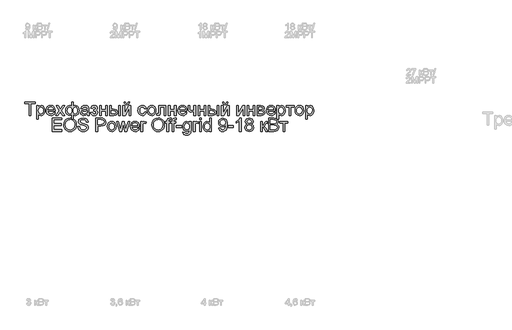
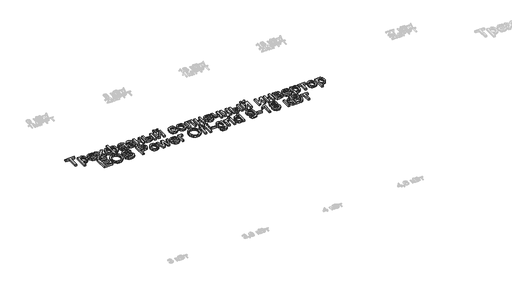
# One storey, part 5 of 26: 1 proxy.
"""IFC4 building model written with IfcOpenShell, lengths in millimetres."""

from ifc_helpers import new_model, si_unit, origin, origin_with_axes, place, context, project, spatial, polyline, outline, extrude, element, save

model = new_model("IFC4")

# Units and contexts
model_context = context("Model", 3, world=origin())
ifc_project = project(units=[si_unit("LENGTHUNIT", "METRE", prefix="MILLI")], contexts=[model_context])

# Site, building, storey
site = spatial("IfcSite", under=ifc_project)
building = spatial("IfcBuilding", under=site)
storey = spatial("IfcBuildingStorey", under=building, Name="Этаж 01", Elevation=0.0)

# Proxy
placement = place(None, origin())
element("IfcBuildingElementProxy", 1, Name="150 мм Arial", ObjectType="150 мм Arial", at=placement, inside=storey, context=model_context, shape_type="SweptSolid", body=[
    extrude(outline(polyline([(890.8573879, -17121.1438018), (890.8573879, -16989.2948948), (841.4140478, -16989.2948948), (841.4140478, -16970.4593366), (959.1362862, -16970.4593366), (959.1362862, -16989.2948948), (909.6929461, -16989.2948948), (909.6929461, -17121.1438018), (890.8573879, -17121.1438018)])), origin_with_axes(), (0.0, 0.0, 1.0), 20.0),
    extrude(outline(polyline([(977.9718444, -17163.5238077), (977.9718444, -17010.4848977), (996.8074025, -17010.4848977), (996.8074025, -17028.9525738), (1009.8304252, -17013.3359831), (1027.4151845, -17008.1304529), (1040.1530986, -17009.9514688), (1051.290726, -17015.4145164), (1060.3590172, -17024.188502), (1066.8889226, -17035.9423317), (1072.1496351, -17064.9682212), (1070.6643116, -17081.076854), (1066.2083409, -17095.4840327), (1058.9242774, -17107.4585916), (1048.9546753, -17116.2693654), (1037.3433999, -17121.6910263), (1025.1343162, -17123.4982466), (1008.7451733, -17118.6605984), (996.8074025, -17106.428522), (996.8074025, -17163.5238077), (977.9718444, -17163.5238077)]), holes=[polyline([(996.8074025, -17066.6972665), (998.8445491, -17083.5830501), (1004.9559887, -17095.3920622), (1013.9736961, -17102.3450319), (1024.729646, -17104.6626884), (1035.6603397, -17102.2622584), (1044.9079734, -17095.0609684), (1051.2125511, -17082.819695), (1053.314077, -17065.299315), (1051.2631349, -17048.5055019), (1045.1103085, -17036.5309429), (1036.1063967, -17029.357244), (1025.5021981, -17026.9660111), (1014.8566129, -17029.5089954), (1005.5078117, -17037.1379482), (998.9825048, -17049.6137464), (996.8074025, -17066.6972665)])]), origin_with_axes(), (0.0, 0.0, 1.0), 20.0),
    extrude(outline(polyline([(1170.8155862, -17088.1815751), (1189.2832624, -17090.5360198), (1182.6291968, -17104.4511563), (1172.0112027, -17114.8530197), (1157.6684034, -17121.3369399), (1139.8399222, -17123.4982466), (1117.7394114, -17119.7688429), (1100.7340662, -17108.5806317), (1089.8907444, -17090.66018), (1086.2763037, -17066.7340547), (1089.9275326, -17042.0031876), (1100.881219, -17023.5079203), (1117.6566379, -17011.9748198), (1138.7730645, -17008.1304529), (1159.2319019, -17011.9656227), (1175.5796581, -17023.4711321), (1186.2988197, -17041.9296112), (1189.8718736, -17066.6236901), (1189.761509, -17071.7004617), (1105.1118619, -17071.7004617), (1108.3722161, -17085.7995391), (1115.9459867, -17096.1646144), (1126.8766804, -17102.5381699), (1140.2078042, -17104.6626884), (1158.6754804, -17100.7263511), (1170.8155862, -17088.1815751)]), holes=[polyline([(1105.1118619, -17052.8649035), (1171.0363154, -17052.8649035), (1168.4887326, -17042.9136956), (1163.4947345, -17035.7951789), (1152.513457, -17029.173303), (1138.6994881, -17026.9660111), (1126.0029607, -17028.7272461), (1115.5045283, -17034.0109513), (1108.2066692, -17042.2469094), (1105.1118619, -17052.8649035)])]), origin_with_axes(), (0.0, 0.0, 1.0), 20.0),
    extrude(outline(polyline([(1196.9352079, -17121.1438018), (1237.1814982, -17065.5200442), (1199.2896527, -17010.4848977), (1221.9511836, -17010.4848977), (1240.2349187, -17036.9724013), (1248.769781, -17049.4803892), (1256.1642091, -17039.2532697), (1276.98633, -17010.4848977), (1299.647861, -17010.4848977), (1259.8430291, -17065.5200442), (1298.176333, -17121.1438018), (1275.5148021, -17121.1438018), (1252.448601, -17087.7033285), (1248.217958, -17081.5964873), (1219.5967388, -17121.1438018), (1196.9352079, -17121.1438018)])), origin_with_axes(), (0.0, 0.0, 1.0), 20.0),
    extrude(outline(polyline([(1378.2274551, -16970.4593366), (1397.0630133, -16970.4593366), (1397.0630133, -17021.1166873), (1409.0375722, -17011.3494204), (1423.0722703, -17008.1304529), (1439.5579822, -17012.2231401), (1452.2269185, -17024.5012017), (1460.2973297, -17042.987272), (1462.9874668, -17065.7039852), (1460.0903961, -17089.1150756), (1451.399184, -17107.5505621), (1438.4037525, -17119.5113255), (1422.5940237, -17123.4982466), (1411.0793173, -17121.6588366), (1397.0630133, -17111.6156582), (1397.0630133, -17163.5238077), (1378.2274551, -17163.5238077), (1378.2274551, -17111.6156582), (1366.1977139, -17120.5184024), (1351.9606807, -17123.4982466), (1336.1785431, -17119.6906679), (1322.5301211, -17108.267932), (1313.0939479, -17089.7542706), (1309.9485568, -17064.6739156), (1312.7950438, -17042.5917988), (1321.3345046, -17024.3908371), (1334.6840225, -17012.195549), (1351.9606807, -17008.1304529), (1366.5472018, -17011.3494204), (1378.2274551, -17021.1166873), (1378.2274551, -16970.4593366)]), holes=[polyline([(1328.784115, -17064.2692454), (1330.6695102, -17082.7461186), (1336.3256959, -17095.2081212), (1344.7777847, -17102.2990466), (1355.0508894, -17104.6626884), (1365.2734104, -17102.3128422), (1372.5436783, -17095.2633035), (1376.8892844, -17083.5140722), (1378.3378197, -17067.0651485), (1376.815708, -17049.5217759), (1372.2493727, -17036.9907954), (1364.6112228, -17029.4722072), (1353.873667, -17026.9660111), (1343.7937004, -17029.4124263), (1335.7738729, -17036.7516721), (1330.5315544, -17048.523896), (1328.784115, -17064.2692454)]), polyline([(1396.9526487, -17066.1454435), (1398.5207457, -17085.2155265), (1403.2250367, -17096.8084078), (1410.2929695, -17102.6991183), (1418.951992, -17104.6626884), (1428.631887, -17102.2484628), (1436.7758747, -17095.0057861), (1442.3079002, -17082.6771407), (1444.1519087, -17065.0050094), (1442.4504544, -17048.2479845), (1437.3460917, -17036.3837901), (1429.5745846, -17029.3204558), (1419.871697, -17026.9660111), (1409.8791023, -17029.4170249), (1402.7100019, -17036.7700662), (1398.391987, -17049.0159381), (1396.9526487, -17066.1454435)])]), origin_with_axes(), (0.0, 0.0, 1.0), 20.0),
    extrude(outline(polyline([(1557.1652576, -17107.0171332), (1538.8999165, -17119.7826384), (1518.7215891, -17123.4982466), (1502.9808382, -17121.2633635), (1491.3695627, -17114.5587141), (1484.2096594, -17104.3775799), (1481.823025, -17091.7132422), (1485.4282685, -17076.8140214), (1494.9012299, -17065.9982907), (1508.0897994, -17059.8178732), (1524.3869718, -17056.9851819), (1557.054893, -17050.5104588), (1557.1652576, -17046.316604), (1555.8684735, -17037.9105004), (1551.9781214, -17032.4106646), (1543.2777123, -17028.3271744), (1531.1560005, -17026.9660111), (1512.0997132, -17030.5896487), (1503.0130279, -17043.4471244), (1484.1774697, -17041.0926797), (1492.3260559, -17022.6985799), (1508.7335929, -17011.9196375), (1533.5840217, -17008.1304529), (1556.4110995, -17011.4781791), (1569.3053634, -17019.8842827), (1575.0811107, -17032.668182), (1576.0008157, -17049.1492954), (1576.0008157, -17072.5833785), (1576.9573089, -17105.3064819), (1580.7097053, -17121.1438018), (1561.8741471, -17121.1438018), (1557.1652576, -17107.0171332)]), holes=[polyline([(1557.1652576, -17069.3460169), (1526.7782048, -17075.1217642), (1510.5730029, -17078.1751848), (1503.2337571, -17083.1415917), (1500.6585831, -17090.388867), (1506.2687835, -17100.5791983), (1522.7315028, -17104.6626884), (1541.7877902, -17100.156134), (1554.0750488, -17089.2484328), (1557.054893, -17074.6803058), (1557.1652576, -17069.3460169)])]), origin_with_axes(), (0.0, 0.0, 1.0), 20.0),
    extrude(outline(polyline([(1627.7986006, -17071.7004617), (1627.7986006, -17052.8649035), (1642.6610333, -17052.1291395), (1650.165826, -17048.2111963), (1653.6974931, -17040.0258219), (1648.9702095, -17030.5160723), (1636.7749213, -17026.9660111), (1624.174963, -17030.4976782), (1616.0263768, -17041.0926797), (1594.8363739, -17038.7382349), (1600.4557714, -17025.3473303), (1608.9998307, -17015.7823984), (1620.4685519, -17010.0434393), (1634.861935, -17008.1304529), (1650.6072843, -17010.4619051), (1662.526661, -17017.4562615), (1670.0314537, -17027.6879795), (1672.5330513, -17039.7315163), (1668.973793, -17051.4301637), (1658.296018, -17060.4800608), (1670.7488236, -17072.2154965), (1674.887496, -17089.10128), (1672.2617383, -17102.9658327), (1664.3844651, -17113.9517088), (1651.7891053, -17121.1116122), (1635.0090878, -17123.4982466), (1618.5969522, -17121.2909546), (1606.0383806, -17114.6690787), (1597.3333729, -17103.6326189), (1592.4819291, -17088.1815751), (1613.671932, -17085.8271303), (1622.1700061, -17099.7330697), (1636.8117095, -17104.6626884), (1650.5704962, -17099.9354048), (1656.0519379, -17087.8504813), (1652.6490294, -17077.9544556), (1645.4017541, -17072.6569549), (1631.4774206, -17071.5900971), (1627.7986006, -17071.7004617)])), origin_with_axes(), (0.0, 0.0, 1.0), 20.0),
    extrude(outline(polyline([(1698.4319437, -17010.4848977), (1717.2675019, -17010.4848977), (1717.2675019, -17052.8649035), (1766.710842, -17052.8649035), (1766.710842, -17010.4848977), (1785.5464002, -17010.4848977), (1785.5464002, -17121.1438018), (1766.710842, -17121.1438018), (1766.710842, -17071.7004617), (1717.2675019, -17071.7004617), (1717.2675019, -17121.1438018), (1698.4319437, -17121.1438018), (1698.4319437, -17010.4848977)])), origin_with_axes(), (0.0, 0.0, 1.0), 20.0),
    extrude(outline(polyline([(1917.3953073, -17010.4848977), (1936.2308654, -17010.4848977), (1936.2308654, -17121.1438018), (1917.3953073, -17121.1438018), (1917.3953073, -17010.4848977)])), origin_with_axes(), (0.0, 0.0, 1.0), 20.0),
    extrude(outline(polyline([(1813.7997374, -17010.4848977), (1832.6352956, -17010.4848977), (1832.6352956, -17050.5104588), (1855.9222259, -17050.5104588), (1876.0499695, -17052.869502), (1890.9629859, -17059.9466319), (1900.1922255, -17071.1716313), (1903.2686386, -17085.9742831), (1900.6888661, -17099.4525597), (1892.9495487, -17110.8247119), (1879.5448485, -17118.5640293), (1859.9689278, -17121.1438018), (1813.7997374, -17121.1438018), (1813.7997374, -17010.4848977)]), holes=[polyline([(1832.6352956, -17102.3082437), (1851.9858885, -17102.3082437), (1876.965076, -17098.3535122), (1882.5660794, -17093.2905363), (1884.4330805, -17086.0110713), (1878.8964565, -17074.4227884), (1870.0167048, -17070.6152098), (1854.4506979, -17069.3460169), (1832.6352956, -17069.3460169), (1832.6352956, -17102.3082437)])]), origin_with_axes(), (0.0, 0.0, 1.0), 20.0),
    extrude(outline(polyline([(1964.4842026, -17010.4848977), (1983.3197608, -17010.4848977), (1983.3197608, -17094.8770274), (2029.5993158, -17010.4848977), (2053.9531039, -17010.4848977), (2053.9531039, -17121.1438018), (2035.1175457, -17121.1438018), (2035.1175457, -17037.2667069), (1989.1322963, -17121.1438018), (1964.4842026, -17121.1438018), (1964.4842026, -17010.4848977)])), origin_with_axes(), (0.0, 0.0, 1.0), 20.0),
    extrude(outline(polyline([(2025.6997666, -16970.4593366), (2039.8264352, -16970.4593366), (2036.7868103, -16982.5212675), (2030.6845677, -16991.4102162), (2021.795619, -16996.8870594), (2010.3958756, -16998.7126738), (1998.0258435, -16996.900855), (1988.4333205, -16991.4653985), (1981.875824, -16982.5902454), (1978.6108712, -16970.4593366), (1992.7375399, -16970.4593366), (1998.0350406, -16981.0727322), (2008.7036185, -16984.5860052), (2020.4022659, -16981.1830968), (2025.6997666, -16970.4593366)])), origin_with_axes(), (0.0, 0.0, 1.0), 20.0),
    extrude(outline(polyline([(2211.7009034, -17081.1182408), (2230.5364615, -17083.4726855), (2225.2849461, -17100.2251119), (2215.4165115, -17112.884851), (2201.86006, -17120.8448977), (2185.5444935, -17123.4982466), (2165.5087204, -17119.796434), (2149.8415459, -17108.6909963), (2139.7293896, -17090.6693771), (2136.3586708, -17066.2190199), (2137.7980091, -17049.4573965), (2142.116024, -17034.9306563), (2149.3816934, -17023.1998191), (2159.6639952, -17014.8259052), (2171.9650494, -17009.804316), (2185.2869761, -17008.1304529), (2201.202471, -17010.4297154), (2213.9265895, -17017.3275028), (2223.0546615, -17028.4559331), (2228.1820168, -17043.4471244), (2209.3464586, -17045.8015692), (2200.6092612, -17031.6932947), (2185.4341289, -17026.9660111), (2173.2618334, -17029.2928647), (2163.6003325, -17036.2734255), (2157.2957548, -17048.2847727), (2155.1942289, -17065.7039852), (2157.2497696, -17083.3577224), (2163.4163915, -17095.4104563), (2172.9031485, -17102.3496304), (2184.9190941, -17104.6626884), (2194.6725655, -17103.2187516), (2202.6694004, -17098.8869411), (2208.4865345, -17091.5568924), (2211.7009034, -17081.1182408)])), origin_with_axes(), (0.0, 0.0, 1.0), 20.0),
    extrude(outline(polyline([(2242.3086854, -17065.8143498), (2246.3829785, -17039.1337081), (2258.6058578, -17020.3809233), (2273.7074137, -17011.1930705), (2291.7888137, -17008.1304529), (2311.5762666, -17011.8598566), (2327.3813968, -17023.0480678), (2337.7418735, -17040.8121697), (2341.1953657, -17064.2692454), (2339.6686554, -17083.2979416), (2335.0885246, -17097.7832951), (2327.5883304, -17108.6312155), (2317.3014301, -17116.747612), (2305.0831493, -17121.8105879), (2291.7888137, -17123.4982466), (2271.7622376, -17119.7826384), (2255.9755015, -17108.635814), (2245.7253894, -17090.4992316), (2242.3086854, -17065.8143498)]), holes=[polyline([(2261.1442435, -17065.7775616), (2263.3239444, -17082.8242935), (2269.8630468, -17094.9689979), (2279.7038902, -17102.2392658), (2291.7888137, -17104.6626884), (2303.818555, -17102.2254702), (2313.6410043, -17094.9138156), (2320.1801067, -17082.6081628), (2322.3598075, -17065.1889504), (2320.1663111, -17048.6388591), (2313.585822, -17036.6597016), (2303.7495771, -17029.3894337), (2291.7888137, -17026.9660111), (2279.7038902, -17029.3802367), (2269.8630468, -17036.6229134), (2263.3239444, -17048.7400267), (2261.1442435, -17065.7775616)])]), origin_with_axes(), (0.0, 0.0, 1.0), 20.0),
    extrude(outline(polyline([(2371.8031477, -17010.4848977), (2456.5631594, -17010.4848977), (2456.5631594, -17121.0334372), (2437.7276012, -17121.0334372), (2437.7276012, -17029.3204558), (2390.6387058, -17029.3204558), (2390.6387058, -17082.1115221), (2389.369513, -17106.4653102), (2382.3981492, -17116.747612), (2365.9170358, -17121.1438018), (2350.6131448, -17120.1873086), (2350.6131448, -17102.3082437), (2359.0376425, -17102.3082437), (2367.5541106, -17101.1494154), (2370.9570191, -17097.4705954), (2371.8031477, -17081.0446644), (2371.8031477, -17010.4848977)])), origin_with_axes(), (0.0, 0.0, 1.0), 20.0),
    extrude(outline(polyline([(2484.8164966, -17010.4848977), (2503.6520548, -17010.4848977), (2503.6520548, -17052.8649035), (2553.0953949, -17052.8649035), (2553.0953949, -17010.4848977), (2571.9309531, -17010.4848977), (2571.9309531, -17121.1438018), (2553.0953949, -17121.1438018), (2553.0953949, -17071.7004617), (2503.6520548, -17071.7004617), (2503.6520548, -17121.1438018), (2484.8164966, -17121.1438018), (2484.8164966, -17010.4848977)])), origin_with_axes(), (0.0, 0.0, 1.0), 20.0),
    extrude(outline(polyline([(2677.6602385, -17088.1815751), (2696.1279146, -17090.5360198), (2689.4738491, -17104.4511563), (2678.855855, -17114.8530197), (2664.5130557, -17121.3369399), (2646.6845745, -17123.4982466), (2624.5840636, -17119.7688429), (2607.5787184, -17108.5806317), (2596.7353966, -17090.66018), (2593.120956, -17066.7340547), (2596.7721848, -17042.0031876), (2607.7258712, -17023.5079203), (2624.5012902, -17011.9748198), (2645.6177167, -17008.1304529), (2666.0765542, -17011.9656227), (2682.4243103, -17023.4711321), (2693.143472, -17041.9296112), (2696.7165258, -17066.6236901), (2696.6061612, -17071.7004617), (2611.9565141, -17071.7004617), (2615.2168683, -17085.7995391), (2622.7906389, -17096.1646144), (2633.7213327, -17102.5381699), (2647.0524565, -17104.6626884), (2665.5201326, -17100.7263511), (2677.6602385, -17088.1815751)]), holes=[polyline([(2611.9565141, -17052.8649035), (2677.8809677, -17052.8649035), (2675.3333849, -17042.9136956), (2670.3393868, -17035.7951789), (2659.3581092, -17029.173303), (2645.5441403, -17026.9660111), (2632.8476129, -17028.7272461), (2622.3491805, -17034.0109513), (2615.0513214, -17042.2469094), (2611.9565141, -17052.8649035)])]), origin_with_axes(), (0.0, 0.0, 1.0), 20.0),
    extrude(outline(polyline([(2708.4887497, -17010.4848977), (2727.3243078, -17010.4848977), (2727.3243078, -17031.7116888), (2728.8510181, -17051.6141047), (2736.1902639, -17062.3930472), (2750.7583909, -17066.9915721), (2776.767648, -17061.2894012), (2776.767648, -17010.4848977), (2795.6032061, -17010.4848977), (2795.6032061, -17121.1438018), (2776.767648, -17121.1438018), (2776.767648, -17079.3524072), (2745.7184076, -17085.8271303), (2734.3278613, -17084.1394716), (2724.3628578, -17079.0764957), (2716.5959491, -17071.5671045), (2711.7996876, -17062.5402), (2708.4887497, -17041.0191033), (2708.4887497, -17010.4848977)])), origin_with_axes(), (0.0, 0.0, 1.0), 20.0),
    extrude(outline(polyline([(2823.8565434, -17010.4848977), (2842.6921015, -17010.4848977), (2842.6921015, -17052.8649035), (2892.1354417, -17052.8649035), (2892.1354417, -17010.4848977), (2910.9709998, -17010.4848977), (2910.9709998, -17121.1438018), (2892.1354417, -17121.1438018), (2892.1354417, -17071.7004617), (2842.6921015, -17071.7004617), (2842.6921015, -17121.1438018), (2823.8565434, -17121.1438018), (2823.8565434, -17010.4848977)])), origin_with_axes(), (0.0, 0.0, 1.0), 20.0),
    extrude(outline(polyline([(3042.8199069, -17010.4848977), (3061.655465, -17010.4848977), (3061.655465, -17121.1438018), (3042.8199069, -17121.1438018), (3042.8199069, -17010.4848977)])), origin_with_axes(), (0.0, 0.0, 1.0), 20.0),
    extrude(outline(polyline([(2939.2243371, -17010.4848977), (2958.0598952, -17010.4848977), (2958.0598952, -17050.5104588), (2981.3468255, -17050.5104588), (3001.4745692, -17052.869502), (3016.3875855, -17059.9466319), (3025.6168251, -17071.1716313), (3028.6932383, -17085.9742831), (3026.1134658, -17099.4525597), (3018.3741483, -17110.8247119), (3004.9694481, -17118.5640293), (2985.3935274, -17121.1438018), (2939.2243371, -17121.1438018), (2939.2243371, -17010.4848977)]), holes=[polyline([(2958.0598952, -17102.3082437), (2977.4104882, -17102.3082437), (3002.3896756, -17098.3535122), (3007.990679, -17093.2905363), (3009.8576801, -17086.0110713), (3004.3210561, -17074.4227884), (2995.4413044, -17070.6152098), (2979.8752975, -17069.3460169), (2958.0598952, -17069.3460169), (2958.0598952, -17102.3082437)])]), origin_with_axes(), (0.0, 0.0, 1.0), 20.0),
    extrude(outline(polyline([(3089.9088023, -17010.4848977), (3108.7443604, -17010.4848977), (3108.7443604, -17094.8770274), (3155.0239154, -17010.4848977), (3179.3777035, -17010.4848977), (3179.3777035, -17121.1438018), (3160.5421454, -17121.1438018), (3160.5421454, -17037.2667069), (3114.556896, -17121.1438018), (3089.9088023, -17121.1438018), (3089.9088023, -17010.4848977)])), origin_with_axes(), (0.0, 0.0, 1.0), 20.0),
    extrude(outline(polyline([(3151.1243663, -16970.4593366), (3165.2510349, -16970.4593366), (3162.2114099, -16982.5212675), (3156.1091673, -16991.4102162), (3147.2202186, -16996.8870594), (3135.8204753, -16998.7126738), (3123.4504432, -16996.900855), (3113.8579202, -16991.4653985), (3107.3004236, -16982.5902454), (3104.0354709, -16970.4593366), (3118.1621395, -16970.4593366), (3123.4596402, -16981.0727322), (3134.1282181, -16984.5860052), (3145.8268655, -16981.1830968), (3151.1243663, -16970.4593366)])), origin_with_axes(), (0.0, 0.0, 1.0), 20.0),
    extrude(outline(polyline([(3266.49216, -17010.4848977), (3285.3277181, -17010.4848977), (3285.3277181, -17094.8770274), (3331.6072731, -17010.4848977), (3355.9610612, -17010.4848977), (3355.9610612, -17121.1438018), (3337.125503, -17121.1438018), (3337.125503, -17037.2667069), (3291.1402536, -17121.1438018), (3266.49216, -17121.1438018), (3266.49216, -17010.4848977)])), origin_with_axes(), (0.0, 0.0, 1.0), 20.0),
    extrude(outline(polyline([(3384.2143984, -17010.4848977), (3403.0499566, -17010.4848977), (3403.0499566, -17052.8649035), (3452.4932967, -17052.8649035), (3452.4932967, -17010.4848977), (3471.3288549, -17010.4848977), (3471.3288549, -17121.1438018), (3452.4932967, -17121.1438018), (3452.4932967, -17071.7004617), (3403.0499566, -17071.7004617), (3403.0499566, -17121.1438018), (3384.2143984, -17121.1438018), (3384.2143984, -17010.4848977)])), origin_with_axes(), (0.0, 0.0, 1.0), 20.0),
    extrude(outline(polyline([(3499.5821921, -17010.4848977), (3541.0792812, -17010.4848977), (3563.8327826, -17013.0048893), (3576.635076, -17022.2387274), (3581.987759, -17038.3335647), (3578.7503975, -17051.4117696), (3569.0015246, -17060.7375782), (3581.6566652, -17070.9463036), (3586.6966486, -17088.6966099), (3583.5052723, -17103.0532047), (3575.9177061, -17113.1607625), (3563.906359, -17119.148042), (3547.4436397, -17121.1438018), (3499.5821921, -17121.1438018), (3499.5821921, -17010.4848977)]), holes=[polyline([(3518.4177503, -17052.8649035), (3537.0325792, -17052.8649035), (3552.3916525, -17051.9084103), (3559.859657, -17048.0824376), (3563.1522009, -17041.1662561), (3561.708264, -17035.5468586), (3557.3764536, -17031.932418), (3537.6211904, -17029.3204558), (3518.4177503, -17029.3204558), (3518.4177503, -17052.8649035)]), polyline([(3518.4177503, -17102.3082437), (3541.5207396, -17102.3082437), (3562.0117667, -17098.9053352), (3566.2516067, -17094.2654236), (3567.8610904, -17087.1515055), (3564.642123, -17078.0832143), (3556.2544135, -17072.8041077), (3539.6813296, -17071.7004617), (3518.4177503, -17071.7004617), (3518.4177503, -17102.3082437)])]), origin_with_axes(), (0.0, 0.0, 1.0), 20.0),
    extrude(outline(polyline([(3687.7170444, -17088.1815751), (3706.1847206, -17090.5360198), (3699.530655, -17104.4511563), (3688.9126609, -17114.8530197), (3674.5698616, -17121.3369399), (3656.7413804, -17123.4982466), (3634.6408696, -17119.7688429), (3617.6355244, -17108.5806317), (3606.7922026, -17090.66018), (3603.1777619, -17066.7340547), (3606.8289908, -17042.0031876), (3617.7826772, -17023.5079203), (3634.5580961, -17011.9748198), (3655.6745227, -17008.1304529), (3676.1333601, -17011.9656227), (3692.4811163, -17023.4711321), (3703.2002779, -17041.9296112), (3706.7733318, -17066.6236901), (3706.6629672, -17071.7004617), (3622.0133201, -17071.7004617), (3625.2736743, -17085.7995391), (3632.8474449, -17096.1646144), (3643.7781386, -17102.5381699), (3657.1092624, -17104.6626884), (3675.5769386, -17100.7263511), (3687.7170444, -17088.1815751)]), holes=[polyline([(3622.0133201, -17052.8649035), (3687.9377736, -17052.8649035), (3685.3901908, -17042.9136956), (3680.3961927, -17035.7951789), (3669.4149152, -17029.173303), (3655.6009463, -17026.9660111), (3642.9044189, -17028.7272461), (3632.4059865, -17034.0109513), (3625.1081274, -17042.2469094), (3622.0133201, -17052.8649035)])]), origin_with_axes(), (0.0, 0.0, 1.0), 20.0),
    extrude(outline(polyline([(3725.6088899, -17163.5238077), (3725.6088899, -17010.4848977), (3744.4444481, -17010.4848977), (3744.4444481, -17028.9525738), (3757.4674707, -17013.3359831), (3775.0522301, -17008.1304529), (3787.7901442, -17009.9514688), (3798.9277716, -17015.4145164), (3807.9960628, -17024.188502), (3814.5259682, -17035.9423317), (3819.7866807, -17064.9682212), (3818.3013572, -17081.076854), (3813.8453865, -17095.4840327), (3806.561323, -17107.4585916), (3796.5917209, -17116.2693654), (3784.9804454, -17121.6910263), (3772.7713617, -17123.4982466), (3756.3822188, -17118.6605984), (3744.4444481, -17106.428522), (3744.4444481, -17163.5238077), (3725.6088899, -17163.5238077)]), holes=[polyline([(3744.4444481, -17066.6972665), (3746.4815946, -17083.5830501), (3752.5930343, -17095.3920622), (3761.6107417, -17102.3450319), (3772.3666915, -17104.6626884), (3783.2973853, -17102.2622584), (3792.545019, -17095.0609684), (3798.8495967, -17082.819695), (3800.9511226, -17065.299315), (3798.9001804, -17048.5055019), (3792.7473541, -17036.5309429), (3783.7434422, -17029.357244), (3773.1392437, -17026.9660111), (3762.4936585, -17029.5089954), (3753.1448573, -17037.1379482), (3746.6195504, -17049.6137464), (3744.4444481, -17066.6972665)])]), origin_with_axes(), (0.0, 0.0, 1.0), 20.0),
    extrude(outline(polyline([(3831.5589046, -17010.4848977), (3921.0278058, -17010.4848977), (3921.0278058, -17029.3204558), (3885.7111342, -17029.3204558), (3885.7111342, -17121.1438018), (3866.8755761, -17121.1438018), (3866.8755761, -17029.3204558), (3831.5589046, -17029.3204558), (3831.5589046, -17010.4848977)])), origin_with_axes(), (0.0, 0.0, 1.0), 20.0),
    extrude(outline(polyline([(3932.8000296, -17065.8143498), (3936.8743227, -17039.1337081), (3949.097202, -17020.3809233), (3964.1987579, -17011.1930705), (3982.280158, -17008.1304529), (4002.0676108, -17011.8598566), (4017.872741, -17023.0480678), (4028.2332177, -17040.8121697), (4031.6867099, -17064.2692454), (4030.1599997, -17083.2979416), (4025.5798688, -17097.7832951), (4018.0796746, -17108.6312155), (4007.7927743, -17116.747612), (3995.5744936, -17121.8105879), (3982.280158, -17123.4982466), (3962.2535819, -17119.7826384), (3946.4668457, -17108.635814), (3936.2167337, -17090.4992316), (3932.8000296, -17065.8143498)]), holes=[polyline([(3951.6355878, -17065.7775616), (3953.8152886, -17082.8242935), (3960.3543911, -17094.9689979), (3970.1952344, -17102.2392658), (3982.280158, -17104.6626884), (3994.3098992, -17102.2254702), (4004.1323485, -17094.9138156), (4010.671451, -17082.6081628), (4012.8511518, -17065.1889504), (4010.6576554, -17048.6388591), (4004.0771662, -17036.6597016), (3994.2409213, -17029.3894337), (3982.280158, -17026.9660111), (3970.1952344, -17029.3802367), (3960.3543911, -17036.6229134), (3953.8152886, -17048.7400267), (3951.6355878, -17065.7775616)])]), origin_with_axes(), (0.0, 0.0, 1.0), 20.0),
    extrude(outline(polyline([(4052.8767129, -17163.5238077), (4052.8767129, -17010.4848977), (4071.712271, -17010.4848977), (4071.712271, -17028.9525738), (4084.7352936, -17013.3359831), (4102.320053, -17008.1304529), (4115.0579671, -17009.9514688), (4126.1955945, -17015.4145164), (4135.2638857, -17024.188502), (4141.7937911, -17035.9423317), (4147.0545036, -17064.9682212), (4145.5691801, -17081.076854), (4141.1132094, -17095.4840327), (4133.8291459, -17107.4585916), (4123.8595438, -17116.2693654), (4112.2482684, -17121.6910263), (4100.0391846, -17123.4982466), (4083.6500418, -17118.6605984), (4071.712271, -17106.428522), (4071.712271, -17163.5238077), (4052.8767129, -17163.5238077)]), holes=[polyline([(4071.712271, -17066.6972665), (4073.7494176, -17083.5830501), (4079.8608572, -17095.3920622), (4088.8785646, -17102.3450319), (4099.6345144, -17104.6626884), (4110.5652082, -17102.2622584), (4119.8128419, -17095.0609684), (4126.1174196, -17082.819695), (4128.2189455, -17065.299315), (4126.1680033, -17048.5055019), (4120.015177, -17036.5309429), (4111.0112651, -17029.357244), (4100.4070666, -17026.9660111), (4089.7614814, -17029.5089954), (4080.4126802, -17037.1379482), (4073.8873733, -17049.6137464), (4071.712271, -17066.6972665)])]), origin_with_axes(), (0.0, 0.0, 1.0), 20.0),
    extrude(outline(polyline([(1155.7324244, -17304.1060286), (1155.7324244, -17153.4215634), (1264.0368838, -17153.4215634), (1264.0368838, -17172.2571215), (1174.5679826, -17172.2571215), (1174.5679826, -17216.9915721), (1259.3279943, -17216.9915721), (1259.3279943, -17235.8271303), (1174.5679826, -17235.8271303), (1174.5679826, -17285.2704704), (1266.3913286, -17285.2704704), (1266.3913286, -17304.1060286), (1155.7324244, -17304.1060286)])), origin_with_axes(), (0.0, 0.0, 1.0), 20.0),
    extrude(outline(polyline([(1287.5813315, -17230.7503588), (1292.6029207, -17197.429447), (1298.8799073, -17183.8109154), (1307.6676884, -17172.2203333), (1330.6695102, -17156.3554223), (1359.5022616, -17151.0671186), (1379.2667218, -17153.5503221), (1396.9894369, -17160.9999325), (1411.7047167, -17172.891718), (1422.4468709, -17188.7014467), (1429.0135646, -17207.6657636), (1431.2024624, -17229.0213134), (1428.8986014, -17250.6619717), (1421.9870184, -17269.893003), (1410.849391, -17285.7303229), (1395.8673968, -17297.1898471), (1378.296433, -17304.1428168), (1359.391897, -17306.4604734), (1339.3239341, -17303.899095), (1321.5000515, -17296.2149598), (1306.8215599, -17284.1024451), (1296.1897702, -17268.2559282), (1289.7334412, -17250.0227768), (1287.5813315, -17230.7503588)]), holes=[polyline([(1306.4168897, -17230.9342998), (1310.1830816, -17254.5063386), (1321.4816574, -17272.468177), (1338.46401, -17283.8357307), (1359.2815324, -17287.6249152), (1380.4025574, -17283.7989425), (1397.4125012, -17272.3210242), (1408.6283035, -17253.8073628), (1412.3669043, -17228.8741606), (1410.7666176, -17212.1999091), (1405.9657576, -17197.788132), (1398.0884843, -17186.0021126), (1387.2589581, -17177.2051344), (1374.1945487, -17171.7282912), (1359.6126262, -17169.9026768), (1339.3515253, -17173.4205483), (1322.1254509, -17183.9741631), (1310.34403, -17202.7499404), (1306.4168897, -17230.9342998)])]), origin_with_axes(), (0.0, 0.0, 1.0), 20.0),
    extrude(outline(polyline([(1450.0380206, -17252.3082437), (1468.8735787, -17252.3082437), (1474.9436317, -17271.1621959), (1489.7692761, -17283.0815726), (1512.3572306, -17287.6249152), (1532.0389173, -17284.1852186), (1544.7492402, -17274.7306513), (1548.9247009, -17262.0939047), (1545.7977039, -17250.340075), (1532.9954105, -17241.7868186), (1505.5698078, -17234.5947256), (1476.0472776, -17225.3057052), (1460.0260167, -17211.2894012), (1454.7469101, -17192.5642077), (1456.3793865, -17181.5323463), (1461.2768155, -17171.245446), (1469.3104386, -17162.5266428), (1480.351497, -17156.1990724), (1508.2737404, -17151.0671186), (1538.072182, -17156.4381957), (1549.494918, -17163.0692687), (1557.9378098, -17172.2203333), (1563.2812957, -17183.3211725), (1565.4058143, -17195.8015692), (1546.5702561, -17195.8015692), (1543.1121654, -17184.5627743), (1535.9016783, -17176.4509763), (1524.6352922, -17171.5397516), (1509.0095044, -17169.9026768), (1493.0158347, -17171.5213575), (1482.0437542, -17176.3773999), (1475.6977897, -17183.5235076), (1473.5824683, -17192.0123847), (1475.0815874, -17199.2504629), (1479.5789448, -17205.0721955), (1510.3338796, -17215.5936206), (1543.6639884, -17225.0481878), (1554.4015441, -17231.8815959), (1561.8925412, -17240.3152906), (1566.2933296, -17250.2573015), (1567.760259, -17261.6156582), (1566.0726004, -17273.2269336), (1561.0096244, -17284.1484304), (1552.7782648, -17293.5478153), (1541.5854551, -17300.5927555), (1528.1255726, -17304.9935439), (1513.0929946, -17306.4604734), (1494.639114, -17304.8785808), (1479.4501861, -17300.132903), (1467.351467, -17292.205046), (1458.1682127, -17281.0766157), (1452.2729037, -17267.5201642), (1450.0380206, -17252.3082437)])), origin_with_axes(), (0.0, 0.0, 1.0), 20.0),
    extrude(outline(polyline([(1654.8747155, -17304.1060286), (1654.8747155, -17153.4215634), (1710.7192024, -17153.4215634), (1733.2335805, -17154.8563032), (1751.5357097, -17161.9012434), (1763.3999041, -17176.4693704), (1767.8880644, -17197.0155798), (1764.8576365, -17214.7750831), (1755.7663527, -17229.5731364), (1738.765606, -17239.5611325), (1712.0067893, -17242.8904646), (1673.7102736, -17242.8904646), (1673.7102736, -17304.1060286), (1654.8747155, -17304.1060286)]), holes=[polyline([(1673.7102736, -17224.0549064), (1713.1104353, -17224.0549064), (1729.8122779, -17222.3258611), (1740.8487378, -17217.1387249), (1747.0015641, -17208.8153948), (1749.0525063, -17197.6777674), (1744.214858, -17182.0795708), (1731.5045351, -17173.5447085), (1712.6689769, -17172.2571215), (1673.7102736, -17172.2571215), (1673.7102736, -17224.0549064)])]), origin_with_axes(), (0.0, 0.0, 1.0), 20.0),
    extrude(outline(polyline([(1786.7236226, -17248.7765765), (1790.7979157, -17222.0959348), (1803.020795, -17203.3431501), (1818.1223509, -17194.1552973), (1836.2037509, -17191.0926797), (1855.9912037, -17194.8220834), (1871.7963339, -17206.0102946), (1882.1568106, -17223.7743964), (1885.6103029, -17247.2314721), (1884.0835926, -17266.2601683), (1879.5034617, -17280.7455219), (1872.0032676, -17291.5934422), (1861.7163673, -17299.7098388), (1849.4980865, -17304.7728147), (1836.2037509, -17306.4604734), (1816.1771748, -17302.7448652), (1800.3904387, -17291.5980408), (1790.1403266, -17273.4614584), (1786.7236226, -17248.7765765)]), holes=[polyline([(1805.5591807, -17248.7397883), (1807.7388815, -17265.7865203), (1814.277984, -17277.9312246), (1824.1188274, -17285.2014926), (1836.2037509, -17287.6249152), (1848.2334922, -17285.187697), (1858.0559414, -17277.8760423), (1864.5950439, -17265.5703896), (1866.7747447, -17248.1511771), (1864.5812483, -17231.6010859), (1858.0007591, -17219.6219284), (1848.1645143, -17212.3516605), (1836.2037509, -17209.9282378), (1824.1188274, -17212.3424634), (1814.277984, -17219.5851402), (1807.7388815, -17231.7022534), (1805.5591807, -17248.7397883)])]), origin_with_axes(), (0.0, 0.0, 1.0), 20.0),
    extrude(outline(polyline([(1925.1576174, -17304.1060286), (1891.4964148, -17193.4471244), (1911.0677369, -17193.4471244), (1930.1608125, -17258.0104146), (1935.8629834, -17281.0766157), (1940.5350847, -17258.8565432), (1955.7286111, -17193.4471244), (1978.1694129, -17193.4471244), (1993.2893629, -17258.6726022), (1997.4464294, -17278.7957473), (2003.4061177, -17257.5689562), (2022.5359815, -17193.4471244), (2042.18088, -17193.4471244), (2008.2621601, -17304.1060286), (1985.4902646, -17304.1060286), (1971.0325021, -17239.2116446), (1966.8386474, -17218.9781349), (1948.1870302, -17304.1060286), (1925.1576174, -17304.1060286)])), origin_with_axes(), (0.0, 0.0, 1.0), 20.0),
    extrude(outline(polyline([(2132.6062744, -17271.1438018), (2151.0739506, -17273.4982466), (2144.419885, -17287.4133831), (2133.8018909, -17297.8152465), (2119.4590916, -17304.2991666), (2101.6306104, -17306.4604734), (2079.5300996, -17302.7310696), (2062.5247543, -17291.5428585), (2051.6814325, -17273.6224068), (2048.0669919, -17249.6962815), (2051.7182207, -17224.9654144), (2062.6719071, -17206.4701471), (2079.4473261, -17194.9370465), (2100.5637527, -17191.0926797), (2121.0225901, -17194.9278495), (2137.3703463, -17206.4333589), (2148.0895079, -17224.891838), (2151.6625618, -17249.5859169), (2151.5521972, -17254.6626884), (2066.9025501, -17254.6626884), (2070.1629043, -17268.7617659), (2077.7366748, -17279.1268411), (2088.6673686, -17285.5003967), (2101.9984924, -17287.6249152), (2120.4661686, -17283.6885779), (2132.6062744, -17271.1438018)]), holes=[polyline([(2066.9025501, -17235.8271303), (2132.8270036, -17235.8271303), (2130.2794208, -17225.8759223), (2125.2854227, -17218.7574057), (2114.3041452, -17212.1355298), (2100.4901763, -17209.9282378), (2087.7936489, -17211.6894729), (2077.2952165, -17216.973178), (2069.9973574, -17225.2091362), (2066.9025501, -17235.8271303)])]), origin_with_axes(), (0.0, 0.0, 1.0), 20.0),
    extrude(outline(polyline([(2170.4981199, -17304.1060286), (2170.4981199, -17193.4471244), (2186.9792333, -17193.4471244), (2186.9792333, -17209.8178732), (2198.6778808, -17194.7347114), (2210.4501046, -17191.0926797), (2229.3592392, -17196.9052152), (2223.068457, -17213.7909988), (2209.8247052, -17209.9282378), (2199.1745215, -17213.643846), (2192.3870986, -17223.9445418), (2189.3336781, -17245.9438852), (2189.3336781, -17304.1060286), (2170.4981199, -17304.1060286)])), origin_with_axes(), (0.0, 0.0, 1.0), 20.0),
    extrude(outline(polyline([(2295.2836927, -17230.7503588), (2300.3052819, -17197.429447), (2306.5822685, -17183.8109154), (2315.3700496, -17172.2203333), (2338.3718714, -17156.3554223), (2367.2046228, -17151.0671186), (2386.9690829, -17153.5503221), (2404.6917981, -17160.9999325), (2419.4070779, -17172.891718), (2430.1492321, -17188.7014467), (2436.7159257, -17207.6657636), (2438.9048236, -17229.0213134), (2436.6009626, -17250.6619717), (2429.6893796, -17269.893003), (2418.5517522, -17285.7303229), (2403.569758, -17297.1898471), (2385.9987942, -17304.1428168), (2367.0942582, -17306.4604734), (2347.0262953, -17303.899095), (2329.2024127, -17296.2149598), (2314.523921, -17284.1024451), (2303.8921314, -17268.2559282), (2297.4358024, -17250.0227768), (2295.2836927, -17230.7503588)]), holes=[polyline([(2314.1192509, -17230.9342998), (2317.8854428, -17254.5063386), (2329.1840186, -17272.468177), (2346.1663712, -17283.8357307), (2366.9838936, -17287.6249152), (2388.1049186, -17283.7989425), (2405.1148624, -17272.3210242), (2416.3306647, -17253.8073628), (2420.0692655, -17228.8741606), (2418.4689788, -17212.1999091), (2413.6681187, -17197.788132), (2405.7908455, -17186.0021126), (2394.9613193, -17177.2051344), (2381.8969099, -17171.7282912), (2367.3149874, -17169.9026768), (2347.0538865, -17173.4205483), (2329.827812, -17183.9741631), (2318.0463911, -17202.7499404), (2314.1192509, -17230.9342998)])]), origin_with_axes(), (0.0, 0.0, 1.0), 20.0),
    extrude(outline(polyline([(2575.4626202, -17259.371578), (2575.4626202, -17240.5360198), (2634.3237395, -17240.5360198), (2634.3237395, -17259.371578), (2575.4626202, -17259.371578)])), origin_with_axes(), (0.0, 0.0, 1.0), 20.0),
    extrude(outline(polyline([(2528.3737248, -17304.1060286), (2528.3737248, -17212.2826826), (2511.8926115, -17212.2826826), (2511.8926115, -17193.4471244), (2528.3737248, -17193.4471244), (2528.3737248, -17182.3003), (2530.3602876, -17166.5917388), (2539.9987959, -17155.3713379), (2558.9815068, -17151.0671186), (2576.161596, -17153.1272578), (2573.4024811, -17170.7855935), (2562.5499622, -17169.9026768), (2550.6857678, -17173.0296737), (2547.209283, -17184.691533), (2547.209283, -17193.4471244), (2568.3992859, -17193.4471244), (2568.3992859, -17212.2826826), (2547.209283, -17212.2826826), (2547.209283, -17304.1060286), (2528.3737248, -17304.1060286)])), origin_with_axes(), (0.0, 0.0, 1.0), 20.0),
    extrude(outline(polyline([(2467.1581608, -17304.1060286), (2467.1581608, -17212.2826826), (2450.6770475, -17212.2826826), (2450.6770475, -17193.4471244), (2467.1581608, -17193.4471244), (2467.1581608, -17182.3003), (2469.1447236, -17166.5917388), (2478.7832319, -17155.3713379), (2497.7659428, -17151.0671186), (2514.946032, -17153.1272578), (2512.1869171, -17170.7855935), (2501.3343982, -17169.9026768), (2489.4702039, -17173.0296737), (2485.993719, -17184.691533), (2485.993719, -17193.4471244), (2507.1837219, -17193.4471244), (2507.1837219, -17212.2826826), (2485.993719, -17212.2826826), (2485.993719, -17304.1060286), (2467.1581608, -17304.1060286)])), origin_with_axes(), (0.0, 0.0, 1.0), 20.0),
    extrude(outline(polyline([(2650.8048528, -17313.5238077), (2669.640411, -17315.8782524), (2675.7472521, -17325.8110663), (2694.0309873, -17330.0049211), (2713.3080038, -17325.2592433), (2722.5050537, -17311.9419151), (2723.7926407, -17289.97936), (2710.5304948, -17300.5743614), (2694.3620811, -17304.1060286), (2674.9425102, -17299.9949473), (2660.4617552, -17287.6617034), (2651.4532449, -17269.5803033), (2648.4504081, -17248.2247535), (2653.8398793, -17219.0333172), (2660.4341641, -17207.1829184), (2669.4380759, -17198.3767432), (2680.5435136, -17192.9136956), (2693.4423761, -17191.0926797), (2710.2453862, -17195.212958), (2723.7926407, -17207.5737931), (2723.7926407, -17193.4471244), (2742.6281988, -17193.4471244), (2742.6281988, -17288.9860786), (2741.3406118, -17311.0452027), (2737.4778509, -17325.571943), (2730.8237853, -17335.2058528), (2721.1622844, -17342.5864853), (2708.7048804, -17347.2769807), (2693.6631053, -17348.8404792), (2676.1381267, -17346.6377858), (2662.3379534, -17340.0297054), (2653.4857929, -17328.9978441), (2650.8048528, -17313.5238077)]), holes=[polyline([(2667.2859662, -17246.9371665), (2669.2955216, -17264.2138247), (2675.3241878, -17276.0918147), (2684.3878805, -17282.9758065), (2695.5025153, -17285.2704704), (2706.5343766, -17282.9896021), (2715.6440545, -17276.146997), (2721.7554941, -17264.4207584), (2723.7926407, -17247.4889895), (2721.6957133, -17231.1596275), (2715.4049312, -17219.4011992), (2706.1618961, -17212.2964782), (2695.2082097, -17209.9282378), (2684.4522598, -17212.25969), (2675.4345524, -17219.2540464), (2669.3231128, -17230.8377307), (2667.2859662, -17246.9371665)])]), origin_with_axes(), (0.0, 0.0, 1.0), 20.0),
    extrude(outline(polyline([(2770.8815361, -17304.1060286), (2770.8815361, -17193.4471244), (2787.3626494, -17193.4471244), (2787.3626494, -17209.8178732), (2799.0612969, -17194.7347114), (2810.8335207, -17191.0926797), (2829.7426553, -17196.9052152), (2823.4518732, -17213.7909988), (2810.2081213, -17209.9282378), (2799.5579376, -17213.643846), (2792.7705148, -17223.9445418), (2789.7170942, -17245.9438852), (2789.7170942, -17304.1060286), (2770.8815361, -17304.1060286)])), origin_with_axes(), (0.0, 0.0, 1.0), 20.0),
    extrude(outline(polyline([(2841.5148791, -17304.1060286), (2841.5148791, -17193.4471244), (2860.3504373, -17193.4471244), (2860.3504373, -17304.1060286), (2841.5148791, -17304.1060286)])), origin_with_axes(), (0.0, 0.0, 1.0), 20.0),
    extrude(outline(polyline([(2841.5148791, -17172.2571215), (2841.5148791, -17153.4215634), (2860.3504373, -17153.4215634), (2860.3504373, -17172.2571215), (2841.5148791, -17172.2571215)])), origin_with_axes(), (0.0, 0.0, 1.0), 20.0),
    extrude(outline(polyline([(2956.8826728, -17304.1060286), (2956.8826728, -17286.3373282), (2944.4206702, -17301.4296871), (2927.1945958, -17306.4604734), (2915.0177018, -17304.6394575), (2903.8708773, -17299.1764099), (2894.4347041, -17290.453008), (2887.3897639, -17278.8509296), (2883.0027711, -17264.8392241), (2881.5404402, -17248.8869411), (2886.9299114, -17218.9045585), (2893.662152, -17207.012773), (2903.079931, -17198.2663786), (2914.4704773, -17192.8861044), (2927.1210194, -17191.0926797), (2944.4850496, -17196.2246335), (2956.8826728, -17209.5603558), (2956.8826728, -17153.4215634), (2975.718231, -17153.4215634), (2975.718231, -17304.1060286), (2956.8826728, -17304.1060286)]), holes=[polyline([(2900.3759984, -17248.8133647), (2902.5005169, -17265.8508996), (2908.8740725, -17277.9680128), (2918.1355017, -17285.2106896), (2928.9236412, -17287.6249152), (2939.7071822, -17285.3210542), (2948.7340866, -17278.4094712), (2954.8455263, -17266.7614076), (2956.8826728, -17250.2481045), (2954.8087381, -17232.1942956), (2948.5869338, -17219.6771107), (2939.3301031, -17212.365456), (2928.151089, -17209.9282378), (2917.2525849, -17212.268887), (2908.3222495, -17219.2908346), (2902.3625611, -17231.3527655), (2900.3759984, -17248.8133647)])]), origin_with_axes(), (0.0, 0.0, 1.0), 20.0),
    extrude(outline(polyline([(3060.4782427, -17266.4349123), (3079.3138008, -17264.0804675), (3082.5327683, -17274.772038), (3087.7750867, -17282.051503), (3094.9119974, -17286.2315622), (3103.8147417, -17287.6249152), (3119.0634504, -17284.0380658), (3129.4009345, -17274.4547398), (3135.5629579, -17258.083991), (3138.2852846, -17236.2318005), (3138.17492, -17232.5529805), (3123.1101523, -17246.8268019), (3102.4535783, -17252.3082437), (3085.2780877, -17248.9605175), (3070.9812736, -17238.917339), (3061.3381668, -17223.4019159), (3058.1237979, -17203.6374557), (3061.4945167, -17183.220005), (3071.606673, -17167.2171382), (3086.7956009, -17156.8704571), (3105.3966343, -17153.4215634), (3119.445128, -17155.389732), (3132.2336258, -17161.2942381), (3142.9297948, -17170.8407758), (3150.701302, -17183.7350398), (3155.4331841, -17201.5589224), (3157.0104782, -17225.8943164), (3155.4377827, -17251.6966399), (3150.7196961, -17271.6404425), (3142.8976052, -17286.6270353), (3132.0128966, -17297.5577291), (3118.53462, -17304.2347873), (3102.9318249, -17306.4604734), (3086.8277906, -17303.8347156), (3073.9795119, -17295.9574424), (3064.9939942, -17283.3252944), (3060.4782427, -17266.4349123)]), holes=[polyline([(3138.17492, -17203.1959973), (3136.142372, -17190.4304921), (3130.044728, -17180.6080428), (3120.5809636, -17174.3448518), (3108.4500548, -17172.2571215), (3095.8684906, -17174.5058002), (3085.7885239, -17181.2518363), (3079.166648, -17191.5755248), (3076.959356, -17204.5571607), (3079.0470864, -17216.1960273), (3085.3102773, -17225.4344639), (3095.1419237, -17231.4631301), (3107.93502, -17233.4726855), (3119.9693598, -17231.4631301), (3129.6584519, -17225.4344639), (3136.045803, -17215.8557365), (3138.17492, -17203.1959973)])]), origin_with_axes(), (0.0, 0.0, 1.0), 20.0),
    extrude(outline(polyline([(3168.782702, -17259.371578), (3168.782702, -17240.5360198), (3227.6438213, -17240.5360198), (3227.6438213, -17259.371578), (3168.782702, -17259.371578)])), origin_with_axes(), (0.0, 0.0, 1.0), 20.0),
    extrude(outline(polyline([(3314.7582777, -17304.1060286), (3295.9227196, -17304.1060286), (3295.9227196, -17186.6780957), (3278.0804428, -17199.3884187), (3258.2516033, -17208.8981682), (3258.2516033, -17191.0926797), (3285.861147, -17173.4711321), (3302.6181719, -17153.4215634), (3314.7582777, -17153.4215634), (3314.7582777, -17304.1060286)])), origin_with_axes(), (0.0, 0.0, 1.0), 20.0),
    extrude(outline(polyline([(3386.9367252, -17221.1118505), (3369.7750301, -17209.413203), (3364.2016179, -17191.2030443), (3367.2366443, -17176.4785674), (3376.3417237, -17164.3108704), (3390.4959835, -17156.1438901), (3408.6785511, -17153.4215634), (3426.9714833, -17156.2082695), (3441.3096841, -17164.5683878), (3450.5803104, -17176.9292229), (3453.6705191, -17191.7180791), (3448.1706833, -17209.4683853), (3431.4872348, -17221.1118505), (3443.0801162, -17227.0853344), (3451.5184094, -17235.8823126), (3456.6641588, -17247.0797208), (3458.3794086, -17260.2544948), (3454.9765002, -17278.2623184), (3444.7677748, -17293.1431451), (3429.0040313, -17303.1311413), (3408.9360685, -17306.4604734), (3388.8681057, -17303.1173457), (3373.1043622, -17293.0879628), (3362.8956368, -17278.0645819), (3359.4927283, -17259.73946), (3361.276956, -17246.0542498), (3366.6296391, -17234.7970607), (3375.2748659, -17226.3541689), (3386.9367252, -17221.1118505)]), holes=[polyline([(3383.037176, -17191.7548673), (3384.7064406, -17199.9770299), (3389.7142342, -17206.5437235), (3397.9134042, -17210.8479428), (3409.1567977, -17212.2826826), (3420.1380752, -17210.8571399), (3428.213085, -17206.5805117), (3433.179492, -17200.2345473), (3434.834961, -17192.6009959), (3433.1243097, -17184.6777374), (3427.9923558, -17178.1248393), (3419.8069815, -17173.724051), (3408.9360685, -17172.2571215), (3397.9961777, -17173.6918613), (3389.8245988, -17177.9960806), (3384.7340317, -17184.3052569), (3383.037176, -17191.7548673)]), polyline([(3378.3282865, -17259.0772724), (3381.4736776, -17273.2591233), (3392.6021079, -17283.8725189), (3409.0832213, -17287.6249152), (3421.9039088, -17285.652148), (3431.524023, -17279.7338464), (3437.5388936, -17270.7713213), (3439.5438505, -17259.6658836), (3437.4745143, -17248.3719063), (3431.2665056, -17239.2116446), (3421.4256622, -17233.1415917), (3408.4578219, -17231.1182408), (3395.8164768, -17233.1140006), (3386.2929317, -17239.10128), (3380.3194478, -17248.0867978), (3378.3282865, -17259.0772724)])]), origin_with_axes(), (0.0, 0.0, 1.0), 20.0),
    extrude(outline(polyline([(3538.4305308, -17193.4471244), (3557.266089, -17193.4471244), (3557.266089, -17240.5360198), (3569.8844414, -17237.1515055), (3580.2219255, -17217.4330305), (3588.81197, -17200.4184883), (3596.3903391, -17194.8818642), (3610.1675199, -17193.4471244), (3613.7727634, -17193.4471244), (3613.7727634, -17212.3930472), (3608.6959919, -17212.2826826), (3599.498942, -17214.2692454), (3593.0242189, -17226.6668686), (3585.4274557, -17240.0761673), (3574.7772719, -17246.6428609), (3586.6598604, -17253.9729097), (3598.3217196, -17269.4147564), (3618.4816529, -17304.1060286), (3597.0709208, -17304.1060286), (3577.3156577, -17270.1505204), (3567.3828438, -17255.7847285), (3557.266089, -17252.3082437), (3557.266089, -17304.1060286), (3538.4305308, -17304.1060286), (3538.4305308, -17193.4471244)])), origin_with_axes(), (0.0, 0.0, 1.0), 20.0),
    extrude(outline(polyline([(3632.6083216, -17304.1060286), (3632.6083216, -17153.4215634), (3690.1082774, -17153.4215634), (3718.2696441, -17157.8545414), (3727.7334085, -17163.4785374), (3734.8979103, -17171.4845693), (3740.9127809, -17190.7615859), (3735.8544035, -17208.3647393), (3720.5689066, -17221.7004617), (3731.242083, -17227.2738739), (3739.1285533, -17235.7535539), (3743.9983912, -17246.5784816), (3745.6216705, -17259.187637), (3741.1886924, -17279.4395408), (3730.2074149, -17293.860515), (3713.818272, -17301.5124605), (3689.666819, -17304.1060286), (3632.6083216, -17304.1060286)]), holes=[polyline([(3651.4438797, -17214.6371274), (3685.8408463, -17214.6371274), (3705.9272032, -17213.0184466), (3718.0121267, -17206.0470828), (3722.0772228, -17193.7782182), (3718.2880382, -17181.4909596), (3707.4355194, -17174.2252902), (3683.2288841, -17172.2571215), (3651.4438797, -17172.2571215), (3651.4438797, -17214.6371274)]), polyline([(3651.4438797, -17285.2704704), (3690.0714892, -17285.2704704), (3704.051005, -17284.5347065), (3715.8784112, -17280.4328222), (3723.7142977, -17272.0635068), (3726.7861123, -17259.371578), (3723.1808688, -17244.7298746), (3711.5006154, -17235.9926772), (3688.2320792, -17233.4726855), (3651.4438797, -17233.4726855), (3651.4438797, -17285.2704704)])]), origin_with_axes(), (0.0, 0.0, 1.0), 20.0),
    extrude(outline(polyline([(3759.7483391, -17193.4471244), (3849.2172403, -17193.4471244), (3849.2172403, -17212.2826826), (3813.9005688, -17212.2826826), (3813.9005688, -17304.1060286), (3795.0650106, -17304.1060286), (3795.0650106, -17212.2826826), (3759.7483391, -17212.2826826), (3759.7483391, -17193.4471244)])), origin_with_axes(), (0.0, 0.0, 1.0), 20.0),
])

save(model, "model.ifc")
